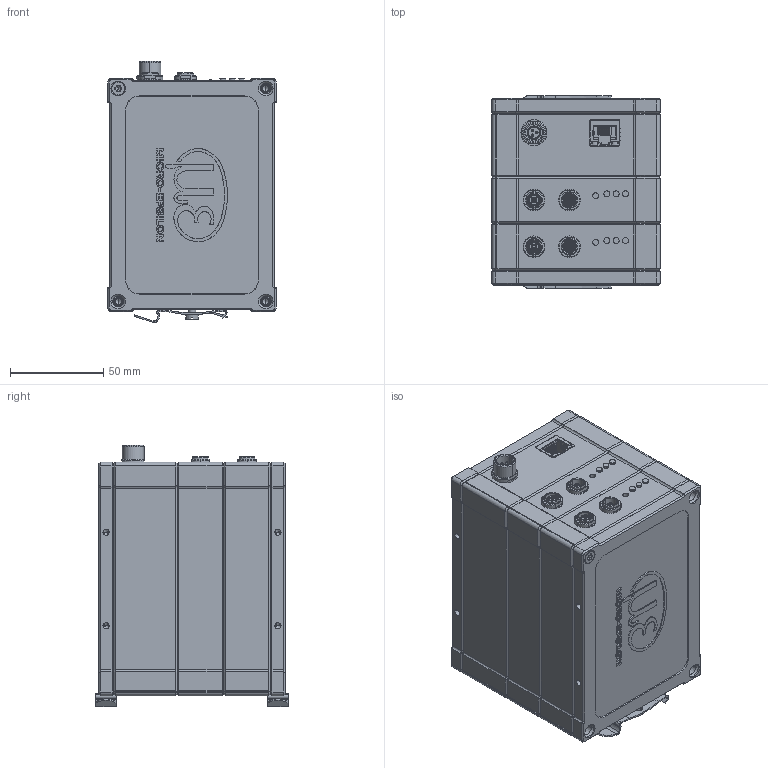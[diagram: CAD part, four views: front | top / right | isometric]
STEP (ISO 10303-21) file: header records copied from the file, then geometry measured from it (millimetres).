
FILE_DESCRIPTION((''),'2;1');
FILE_NAME('0000051344_ASM','2013-01-15T',('11000065'),(''),'PRO/ENGINEER BY PARAMETRIC TECHNOLOGY CORPORATION, 2012360','PRO/ENGINEER BY PARAMETRIC TECHNOLOGY CORPORATION, 2012360','');
FILE_SCHEMA(('AUTOMOTIVE_DESIGN { 1 0 10303 214 1 1 1 1 }'));
Products named in the file (15): 0000030906; 0000038141; 0000012139; GH1L0C-P03RP00-0000; C-5-6605425-1-E-3D; 0000047983_ASM; 0000030905; 0000047985; G50L0C-P04QF00-0000; 0323086; 0000047984_ASM; 0000038146; 0000042844; 0000013467; 0000051344_ASM
Assembly tree (23 placements, depth 3):
  0000051344_ASM
    0000047983_ASM
      0000030906
      0000038141
      0000012139  x4
      GH1L0C-P03RP00-0000
      C-5-6605425-1-E-3D
    0000047984_ASM  x2
      0000030905
      0000047985
      G50L0C-P04QF00-0000
      0323086
    0000038146
    0000042844  x2
    0000013467  x2
    0000012139
Bounding box: 90 x 103 x 139.79 mm (x, y, z)
Volume: 246554.3 mm3; surface area: 167102 mm2
Topology: 30 solids, 30 shells, 3731 faces, 10094 edges, 6548 vertices
Faces by surface type: plane 1531, cone 966, cylinder 912, torus 232, extrusion 70, bspline 12, sphere 8
Entity records: 115885 total; most frequent: CARTESIAN_POINT 24702, ORIENTED_EDGE 14036, DIRECTION 13635, EDGE_CURVE 7018, PRESENTATION_STYLE_ASSIGNMENT 5681, STYLED_ITEM 5620, CURVE_STYLE 5326, AXIS2_PLACEMENT_3D 4963
